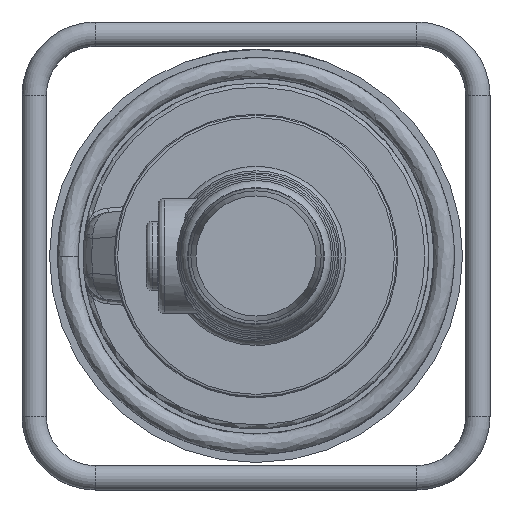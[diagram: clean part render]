
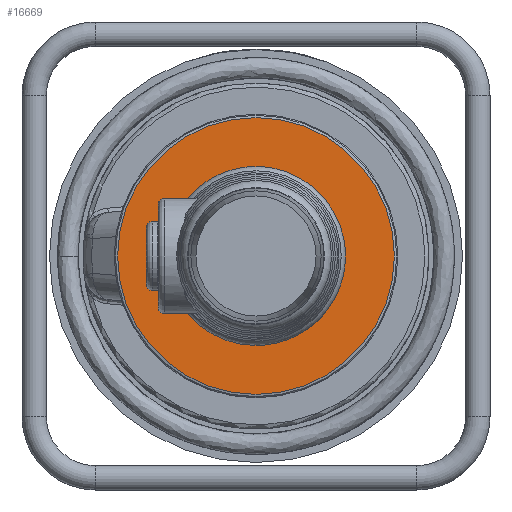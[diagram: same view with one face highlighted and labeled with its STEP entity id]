
A CAD part, left-side view. The second image highlights one B-rep face of the part: STEP entity #16669.
In plain terms, the highlighted planar face has unit normal (-1, 0, 0).
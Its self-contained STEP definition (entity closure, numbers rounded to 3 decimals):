
#126=FACE_BOUND('',#5519,.T.);
#933=B_SPLINE_CURVE_WITH_KNOTS('',3,(#40397,#40398,#40399,#40400,#40401,
#40402,#40403,#40404,#40405,#40406,#40407,#40408,#40409,#40410,#40411,#40412,
#40413,#40414,#40415,#40416,#40417,#40418,#40419,#40420,#40421,#40422),
 .UNSPECIFIED.,.F.,.F.,(4,2,2,2,2,2,2,2,2,2,2,2,4),(-9.637,-9.63,
-9.622,-9.603,-9.551,-9.384,
-8.87,-7.81,-6.371,-4.874,
-3.299,-1.673,0.),.UNSPECIFIED.);
#1660=PLANE('',#17875);
#2594=LINE('',#40395,#3542);
#3542=VECTOR('',#21180,10.);
#4509=FACE_OUTER_BOUND('',#5518,.T.);
#5518=EDGE_LOOP('',(#14881));
#5519=EDGE_LOOP('',(#14882,#14883,#14884));
#6151=CIRCLE('',#17876,68.);
#6152=CIRCLE('',#17877,40.75);
#7783=VERTEX_POINT('',#40391);
#7784=VERTEX_POINT('',#40393);
#7785=VERTEX_POINT('',#40394);
#7786=VERTEX_POINT('',#40396);
#10162=EDGE_CURVE('',#7783,#7783,#6151,.T.);
#10163=EDGE_CURVE('',#7784,#7785,#2594,.T.);
#10164=EDGE_CURVE('',#7786,#7784,#933,.T.);
#10165=EDGE_CURVE('',#7786,#7785,#6152,.T.);
#14881=ORIENTED_EDGE('',*,*,#10162,.F.);
#14882=ORIENTED_EDGE('',*,*,#10163,.F.);
#14883=ORIENTED_EDGE('',*,*,#10164,.F.);
#14884=ORIENTED_EDGE('',*,*,#10165,.T.);
#16669=ADVANCED_FACE('',(#4509,#126),#1660,.T.);
#17875=AXIS2_PLACEMENT_3D('',#40390,#21176,#21177);
#17876=AXIS2_PLACEMENT_3D('',#40392,#21178,#21179);
#17877=AXIS2_PLACEMENT_3D('',#40423,#21181,#21182);
#21176=DIRECTION('center_axis',(-1.,0.,0.));
#21177=DIRECTION('ref_axis',(0.,-1.,0.));
#21178=DIRECTION('center_axis',(1.,0.,0.));
#21179=DIRECTION('ref_axis',(0.,0.,
-1.));
#21180=DIRECTION('',(0.,0.951,-0.309));
#21181=DIRECTION('center_axis',(1.,0.,0.));
#21182=DIRECTION('ref_axis',(0.,0.,
-1.));
#40390=CARTESIAN_POINT('Origin',(-128.,0.,-55.5));
#40391=CARTESIAN_POINT('',(-128.,-68.,0.));
#40392=CARTESIAN_POINT('Origin',(-128.,0.,0.));
#40393=CARTESIAN_POINT('',(-128.,-40.342,13.108));
#40394=CARTESIAN_POINT('',(-128.,-38.756,12.592));
#40395=CARTESIAN_POINT('',(-128.,-11.266,3.661));
#40396=CARTESIAN_POINT('',(-128.,6.525,-40.224));
#40397=CARTESIAN_POINT('Ctrl Pts',(-128.,6.525,-40.224));
#40398=CARTESIAN_POINT('Ctrl Pts',(-128.,6.526,-40.229));
#40399=CARTESIAN_POINT('Ctrl Pts',(-128.,6.526,-40.234));
#40400=CARTESIAN_POINT('Ctrl Pts',(-128.,6.524,-40.245));
#40401=CARTESIAN_POINT('Ctrl Pts',(-128.,6.523,-40.25));
#40402=CARTESIAN_POINT('Ctrl Pts',(-128.,6.515,-40.268));
#40403=CARTESIAN_POINT('Ctrl Pts',(-128.,6.507,-40.279));
#40404=CARTESIAN_POINT('Ctrl Pts',(-128.,6.472,-40.317));
#40405=CARTESIAN_POINT('Ctrl Pts',(-128.,6.433,-40.344));
#40406=CARTESIAN_POINT('Ctrl Pts',(-128.,6.276,-40.437));
#40407=CARTESIAN_POINT('Ctrl Pts',(-128.,6.099,-40.505));
#40408=CARTESIAN_POINT('Ctrl Pts',(-128.,5.564,-40.695));
#40409=CARTESIAN_POINT('Ctrl Pts',(-128.,4.963,-40.856));
#40410=CARTESIAN_POINT('Ctrl Pts',(-128.,2.674,-41.317));
#40411=CARTESIAN_POINT('Ctrl Pts',(-128.,0.244,-41.635));
#40412=CARTESIAN_POINT('Ctrl Pts',(-128.,-6.94,-41.468));
#40413=CARTESIAN_POINT('Ctrl Pts',(-128.,-11.399,-40.675));
#40414=CARTESIAN_POINT('Ctrl Pts',(-128.,-20.537,
-37.191));
#40415=CARTESIAN_POINT('Ctrl Pts',(-128.,-24.833,
-34.57));
#40416=CARTESIAN_POINT('Ctrl Pts',(-128.,-32.474,
-27.759));
#40417=CARTESIAN_POINT('Ctrl Pts',(-128.,-35.695,
-23.552));
#40418=CARTESIAN_POINT('Ctrl Pts',(-128.,-40.483,
-14.015));
#40419=CARTESIAN_POINT('Ctrl Pts',(-128.,-41.949,
-8.738));
#40420=CARTESIAN_POINT('Ctrl Pts',(-128.,-42.796,
2.228));
#40421=CARTESIAN_POINT('Ctrl Pts',(-128.,-42.109,7.82));
#40422=CARTESIAN_POINT('Ctrl Pts',(-128.,-40.342,13.108));
#40423=CARTESIAN_POINT('Origin',(-128.,0.,
0.));
